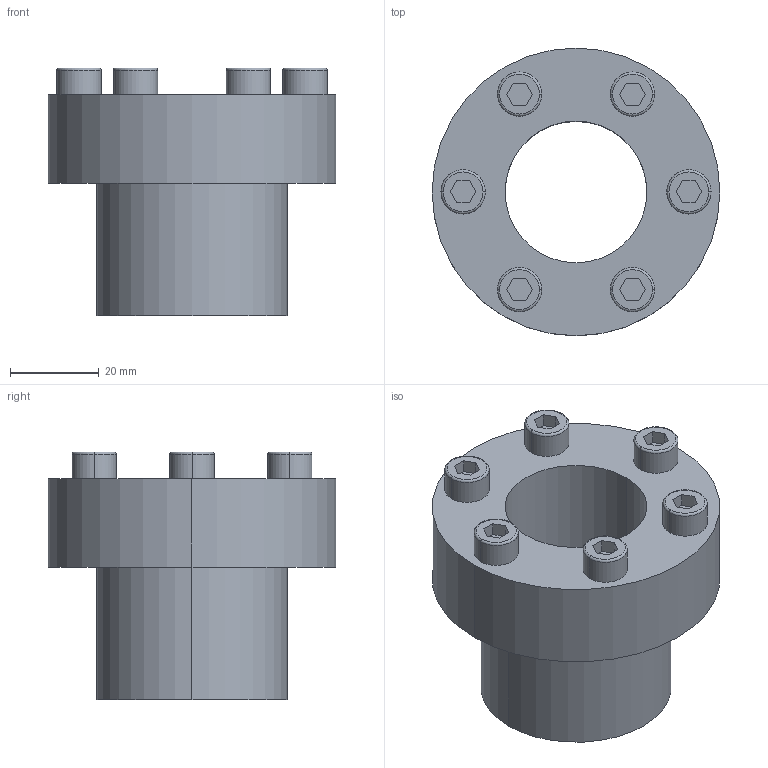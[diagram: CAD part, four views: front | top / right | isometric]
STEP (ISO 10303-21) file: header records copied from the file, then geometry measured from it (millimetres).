
FILE_DESCRIPTION (( 'STEP AP203' ), '1' );
FILE_NAME ('PL-C 32-43.STEP', '2021-10-22T08:39:45', ( '' ), ( '' ), 'SwSTEP 2.0', 'SolidWorks 2018', '' );
FILE_SCHEMA (( 'CONFIG_CONTROL_DESIGN' ));
Length unit declared in the file: millimetre
Products named in the file (1): PL-C 32-43
Bounding box: 65 x 65 x 56 mm (x, y, z)
Volume: 72147.6 mm3; surface area: 19593 mm2
Topology: 1 solids, 1 shells, 81 faces, 186 edges, 120 vertices
Faces by surface type: plane 51, cylinder 18, torus 12
Entity records: 2365 total; most frequent: DIRECTION 410, CARTESIAN_POINT 388, ORIENTED_EDGE 372, EDGE_CURVE 186, AXIS2_PLACEMENT_3D 142, LINE 126, VECTOR 126, VERTEX_POINT 120
